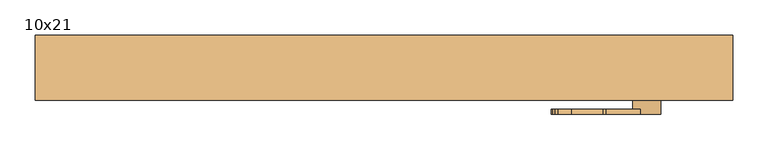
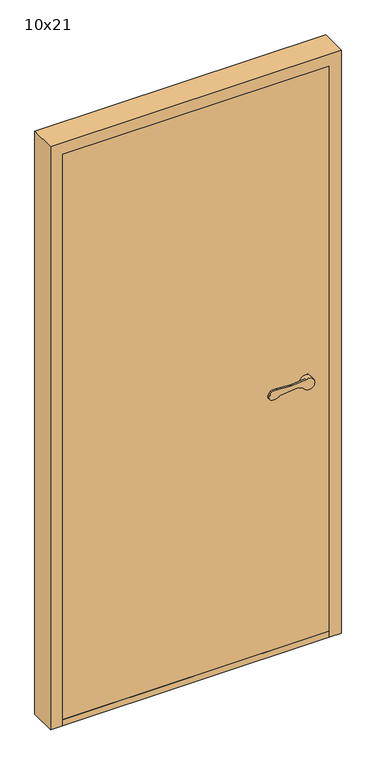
"""IFC4 building model written with IfcOpenShell, lengths in millimetres: door geometry, Innerdør Slett (Diplomat) : 10x21."""

from ifc_helpers import new_model, si_unit, point, frame, frame_2d, origin, origin_with_axes, place, context, project, spatial, polyline, circle_curve, trimmed, segment, composite_curve, outline, extrude, source, transform, mapped, element, save
from ifc_brep_helpers import plane_surface, cylinder_surface, revolved_surface, advanced_brep


def door_10x21_4a16924f(model_context):
    return source(origin(), model_context, "Body", "SolidModel", [
        advanced_brep(
        [(393.9611305, 5.0, 949.1175955), (388.8520664, 5.0, 949.9496913), (326.0476109, 5.0, 943.6260011), (296.721536, 5.0, 938.7393398), (291.8691983, 5.0, 951.8913379), (295.505009, 5.0, 959.9624074), (300.3175669, 5.0, 964.8810513), (318.8963175, 5.0, 967.2639242), (363.6202158, 5.0, 964.1804415), (368.6891233, 5.0, 964.26032), (417.2687793, 5.0, 969.1517356), (446.379633, 5.0, 951.3474568), (408.3841161, 5.0, 942.6204086), (368.6891233, -2.1084716, 964.26032), (363.6202158, -2.1084716, 964.1804415), (318.8963175, -2.1084716, 967.2639242), (300.3175669, -2.1084716, 964.8810513), (295.505009, -2.1084716, 959.9624074), (291.8691983, -2.1084716, 951.8913379), (296.721536, -2.1084716, 938.7393398), (326.0476109, -2.1084716, 943.6260011), (388.8520664, -2.1084716, 949.9496913), (393.9611305, -2.1084716, 949.1175955), (408.3841161, -2.1084716, 942.6204086), (406.379633, -2.1084716, 951.3474568), (417.2687793, -2.1084716, 969.1517356), (446.379633, -30.0, 951.3474568), (406.379633, -30.0, 951.3474568)],
        [
            (0, 1, circle_curve(frame((389.8538865, 5.0, 940.0), z_axis=(0.0, -1.0, 0.0), x_axis=(-0.9949691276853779, 0.0, -0.10018200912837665)), 10.0)),
            (1, 2),
            (2, 3, circle_curve(frame((307.8569644, 5.0, 962.352734), z_axis=(0.0, 1.0, 0.0), x_axis=(-0.9949691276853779, 0.0, -0.10018200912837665)), 26.1072815)),
            (3, 4, circle_curve(frame((300.9867937, 5.0, 947.7840939), z_axis=(0.0, 1.0, 0.0), x_axis=(-0.9949691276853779, 0.0, -0.10018200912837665)), 10.0)),
            (4, 5),
            (5, 6, circle_curve(frame((304.6226045, 5.0, 955.8551634), z_axis=(0.0, 1.0, 0.0), x_axis=(-0.9949691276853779, 0.0, -0.10018200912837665)), 10.0)),
            (6, 7, circle_curve(frame((313.2326797, 5.0, 937.8033877), z_axis=(0.0, 1.0, 0.0), x_axis=(-0.9949691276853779, 0.0, -0.10018200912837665)), 30.0)),
            (7, 8),
            (8, 9, circle_curve(frame((365.683663, 5.0, 994.1093938), z_axis=(0.0, -1.0, 0.0), x_axis=(-0.9949691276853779, 0.0, -0.10018200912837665)), 30.0)),
            (9, 10),
            (10, 11, circle_curve(frame((426.379633, 5.0, 951.3474568), z_axis=(0.0, 1.0, 0.0), x_axis=(-1.0, 0.0, 0.0)), 20.0)),
            (11, 12, circle_curve(frame((426.379633, 5.0, 951.3474568), z_axis=(0.0, 1.0, 0.0), x_axis=(-1.0, 0.0, 0.0)), 20.0)),
            (12, 0),
            (13, 14, circle_curve(frame((365.683663, -2.1084716, 994.1093938), z_axis=(0.0, 1.0, 0.0), x_axis=(-0.9949691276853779, 0.0, -0.10018200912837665)), 30.0)),
            (14, 15),
            (15, 16, circle_curve(frame((313.2326797, -2.1084716, 937.8033877), z_axis=(0.0, -1.0, 0.0), x_axis=(-0.9949691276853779, 0.0, -0.10018200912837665)), 30.0)),
            (16, 17, circle_curve(frame((304.6226045, -2.1084716, 955.8551634), z_axis=(0.0, -1.0, 0.0), x_axis=(-0.9949691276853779, 0.0, -0.10018200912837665)), 10.0)),
            (17, 18),
            (18, 19, circle_curve(frame((300.9867937, -2.1084716, 947.7840939), z_axis=(0.0, -1.0, 0.0), x_axis=(-0.9949691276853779, 0.0, -0.10018200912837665)), 10.0)),
            (19, 20, circle_curve(frame((307.8569644, -2.1084716, 962.352734), z_axis=(0.0, -1.0, 0.0), x_axis=(-0.9949691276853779, 0.0, -0.10018200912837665)), 26.1072815)),
            (20, 21),
            (21, 22, circle_curve(frame((389.8538865, -2.1084716, 940.0), z_axis=(0.0, 1.0, 0.0), x_axis=(-0.9949691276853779, 0.0, -0.10018200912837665)), 10.0)),
            (22, 23),
            (23, 24, circle_curve(frame((426.379633, -2.1084716, 951.3474568), z_axis=(0.0, 1.0, 0.0), x_axis=(-1.0, 0.0, 0.0)), 20.0)),
            (24, 25, circle_curve(frame((426.379633, -2.1084716, 951.3474568), z_axis=(0.0, 1.0, 0.0), x_axis=(-1.0, 0.0, 0.0)), 20.0)),
            (25, 13),
            (9, 13),
            (25, 10),
            (22, 0),
            (12, 23),
            (21, 1),
            (20, 2),
            (19, 3),
            (18, 4),
            (17, 5),
            (16, 6),
            (15, 7),
            (14, 8),
            (26, 27, circle_curve(frame((426.379633, -30.0, 951.3474568), z_axis=(0.0, -1.0, 0.0), x_axis=(-1.0, 0.0, 0.0)), 20.0)),
            (27, 26, circle_curve(frame((426.379633, -30.0, 951.3474568), z_axis=(0.0, -1.0, 0.0), x_axis=(-1.0, 0.0, 0.0)), 20.0)),
            (27, 24),
            (11, 26),
        ],
        [
            plane_surface(frame((417.6960588, 5.0, 969.1947577), z_axis=(0.0, 1.0000000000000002, 0.0), x_axis=(0.9949691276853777, 0.0, 0.10018200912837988))),
            plane_surface(frame((417.6960588, -2.1084716, 969.1947577), z_axis=(0.0, -1.0000000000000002, 0.0), x_axis=(-0.9949691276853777, 0.0, -0.10018200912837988))),
            plane_surface(frame((368.6891233, 5.0, 964.26032), z_axis=(-0.10018200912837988, 0.0, 0.9949691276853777), x_axis=(0.0, -1.0, 0.0))),
            plane_surface(frame((426.9687366, 5.0, 934.2485115), z_axis=(-0.41072439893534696, 0.0, -0.91175954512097), x_axis=(0.0, -1.0, 0.0))),
            revolved_surface(polyline([(379.9041952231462, -2.1084716, 938.9981799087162), (379.9041952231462, 5.0, 938.9981799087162)]), (389.8538865, -2.1084716, 940.0), (0.0, -1.0, 0.0)),
            plane_surface(frame((388.8520664, 5.0, 949.9496913), z_axis=(0.10018200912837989, 0.0, -0.9949691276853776), x_axis=(0.0, -1.0, 0.0))),
            cylinder_surface(frame((307.8569644, -2.1084716, 962.352734), z_axis=(0.0, 1.0, 0.0), x_axis=(-0.9949691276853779, 0.0, -0.10018200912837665)), 26.1072815),
            cylinder_surface(frame((300.9867937, -2.1084716, 947.7840939), z_axis=(0.0, 1.0, 0.0), x_axis=(-0.9949691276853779, 0.0, -0.10018200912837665)), 10.0),
            plane_surface(frame((291.8691983, 5.0, 951.8913379), z_axis=(-0.9117595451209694, 0.0, 0.41072439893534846), x_axis=(0.0, -1.0, 0.0))),
            cylinder_surface(frame((304.6226045, -2.1084716, 955.8551634), z_axis=(0.0, 1.0, 0.0), x_axis=(-0.9949691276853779, 0.0, -0.10018200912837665)), 10.0),
            cylinder_surface(frame((313.2326797, -2.1084716, 937.8033877), z_axis=(0.0, 1.0, 0.0), x_axis=(-0.9949691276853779, 0.0, -0.10018200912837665)), 30.0),
            plane_surface(frame((318.8963175, 5.0, 967.2639242), z_axis=(0.06878157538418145, 0.0, 0.9976317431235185), x_axis=(0.0, -1.0, 0.0))),
            revolved_surface(polyline([(335.8345891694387, -2.1084716, 991.1039335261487), (335.8345891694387, 5.0, 991.1039335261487)]), (365.683663, -2.1084716, 994.1093938), (0.0, -1.0, 0.0)),
            plane_surface(frame((406.379633, -30.0, 951.3474568), z_axis=(0.0, -1.0, 0.0), x_axis=(0.0, 0.0, -1.0))),
            cylinder_surface(frame((426.379633, -30.0, 951.3474568), z_axis=(0.0, 1.0, 0.0), x_axis=(-1.0, 0.0, 0.0)), 20.0),
        ],
        [
            (0, [[1, 2, 3, 4, 5, 6, 7, 8, 9, 10, 11, 12, 13]]),
            (1, [[14, 15, 16, 17, 18, 19, 20, 21, 22, 23, 24, 25, 26]]),
            (2, [[27, -26, 28, -10]]),
            (3, [[29, -13, 30, -23]]),
            (4, [[-1, -29, -22, 31]]),
            (5, [[-2, -31, -21, 32]]),
            (6, [[-3, -32, -20, 33]]),
            (7, [[-4, -33, -19, 34]]),
            (8, [[-5, -34, -18, 35]]),
            (9, [[-6, -35, -17, 36]]),
            (10, [[-7, -36, -16, 37]]),
            (11, [[-8, -37, -15, 38]]),
            (12, [[-9, -38, -14, -27]]),
            (13, [[39, 40]]),
            (14, [[-40, 41, -24, -30, -12, 42]]),
            (14, [[-39, -42, -11, -28, -25, -41]]),
        ],
    ),
        extrude(outline(composite_curve([segment(trimmed(circle_curve(frame_2d((866.3474568, 426.379633)), 20.0), [point((866.3474568, 446.379633))], [point((866.3474568, 406.379633))], False, "CARTESIAN"), True, "CONTINUOUS"), segment(trimmed(circle_curve(frame_2d((866.3474568, 426.379633)), 20.0), [point((866.3474568, 406.379633))], [point((866.3474568, 446.379633))], False, "CARTESIAN"), True, "CONTINUOUS")], self_intersect=False)), frame((0.0, -30.0, 0.0), z_axis=(0.0, 1.0, 0.0), x_axis=(0.0, 0.0, 1.0)), (0.0, 0.0, 1.0), 5.0),
        advanced_brep(
        [(393.9611305, -100.0, 949.1175955), (408.3841161, -100.0, 942.6204086), (446.379633, -100.0, 951.3474568), (417.2687793, -100.0, 969.1517356), (368.6891233, -100.0, 964.26032), (363.6202158, -100.0, 964.1804415), (318.8963175, -100.0, 967.2639242), (300.3175669, -100.0, 964.8810513), (295.505009, -100.0, 959.9624074), (291.8691983, -100.0, 951.8913379), (296.721536, -100.0, 938.7393398), (326.0476109, -100.0, 943.6260011), (388.8520664, -100.0, 949.9496913), (368.6891233, -92.8915284, 964.26032), (417.2687793, -92.8915284, 969.1517356), (406.379633, -92.8915284, 951.3474568), (408.3841161, -92.8915284, 942.6204086), (393.9611305, -92.8915284, 949.1175955), (388.8520664, -92.8915284, 949.9496913), (326.0476109, -92.8915284, 943.6260011), (296.721536, -92.8915284, 938.7393398), (291.8691983, -92.8915284, 951.8913379), (295.505009, -92.8915284, 959.9624074), (300.3175669, -92.8915284, 964.8810513), (318.8963175, -92.8915284, 967.2639242), (363.6202158, -92.8915284, 964.1804415), (446.379633, -65.0, 951.3474568), (406.379633, -65.0, 951.3474568)],
        [
            (0, 1),
            (1, 2, circle_curve(frame((426.379633, -100.0, 951.3474568), z_axis=(0.0, -1.0, 0.0), x_axis=(-1.0, 0.0, 0.0)), 20.0)),
            (2, 3, circle_curve(frame((426.379633, -100.0, 951.3474568), z_axis=(0.0, -1.0, 0.0), x_axis=(-1.0, 0.0, 0.0)), 20.0)),
            (3, 4),
            (4, 5, circle_curve(frame((365.683663, -100.0, 994.1093938), z_axis=(0.0, 1.0, 0.0), x_axis=(-0.9949691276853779, 0.0, -0.10018200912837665)), 30.0)),
            (5, 6),
            (6, 7, circle_curve(frame((313.2326797, -100.0, 937.8033877), z_axis=(0.0, -1.0, 0.0), x_axis=(-0.9949691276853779, 0.0, -0.10018200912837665)), 30.0)),
            (7, 8, circle_curve(frame((304.6226045, -100.0, 955.8551634), z_axis=(0.0, -1.0, 0.0), x_axis=(-0.9949691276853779, 0.0, -0.10018200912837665)), 10.0)),
            (8, 9),
            (9, 10, circle_curve(frame((300.9867937, -100.0, 947.7840939), z_axis=(0.0, -1.0, 0.0), x_axis=(-0.9949691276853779, 0.0, -0.10018200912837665)), 10.0)),
            (10, 11, circle_curve(frame((307.8569644, -100.0, 962.352734), z_axis=(0.0, -1.0, 0.0), x_axis=(-0.9949691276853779, 0.0, -0.10018200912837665)), 26.1072815)),
            (11, 12),
            (12, 0, circle_curve(frame((389.8538865, -100.0, 940.0), z_axis=(0.0, 1.0, 0.0), x_axis=(-0.9949691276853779, 0.0, -0.10018200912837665)), 10.0)),
            (13, 14),
            (14, 15, circle_curve(frame((426.379633, -92.8915284, 951.3474568), z_axis=(0.0, -1.0, 0.0), x_axis=(-1.0, 0.0, 0.0)), 20.0)),
            (15, 16, circle_curve(frame((426.379633, -92.8915284, 951.3474568), z_axis=(0.0, -1.0, 0.0), x_axis=(-1.0, 0.0, 0.0)), 20.0)),
            (16, 17),
            (17, 18, circle_curve(frame((389.8538865, -92.8915284, 940.0), z_axis=(0.0, -1.0, 0.0), x_axis=(-0.9949691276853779, 0.0, -0.10018200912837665)), 10.0)),
            (18, 19),
            (19, 20, circle_curve(frame((307.8569644, -92.8915284, 962.352734), z_axis=(0.0, 1.0, 0.0), x_axis=(-0.9949691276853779, 0.0, -0.10018200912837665)), 26.1072815)),
            (20, 21, circle_curve(frame((300.9867937, -92.8915284, 947.7840939), z_axis=(0.0, 1.0, 0.0), x_axis=(-0.9949691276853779, 0.0, -0.10018200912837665)), 10.0)),
            (21, 22),
            (22, 23, circle_curve(frame((304.6226045, -92.8915284, 955.8551634), z_axis=(0.0, 1.0, 0.0), x_axis=(-0.9949691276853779, 0.0, -0.10018200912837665)), 10.0)),
            (23, 24, circle_curve(frame((313.2326797, -92.8915284, 937.8033877), z_axis=(0.0, 1.0, 0.0), x_axis=(-0.9949691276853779, 0.0, -0.10018200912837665)), 30.0)),
            (24, 25),
            (25, 13, circle_curve(frame((365.683663, -92.8915284, 994.1093938), z_axis=(0.0, -1.0, 0.0), x_axis=(-0.9949691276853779, 0.0, -0.10018200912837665)), 30.0)),
            (3, 14),
            (13, 4),
            (16, 1),
            (0, 17),
            (12, 18),
            (11, 19),
            (10, 20),
            (9, 21),
            (8, 22),
            (7, 23),
            (6, 24),
            (5, 25),
            (26, 27, circle_curve(frame((426.379633, -65.0, 951.3474568), z_axis=(0.0, 1.0, 0.0), x_axis=(-1.0, 0.0, 0.0)), 20.0)),
            (27, 26, circle_curve(frame((426.379633, -65.0, 951.3474568), z_axis=(0.0, 1.0, 0.0), x_axis=(-1.0, 0.0, 0.0)), 20.0)),
            (26, 2),
            (15, 27),
        ],
        [
            plane_surface(frame((417.6960588, -100.0, 969.1947577), z_axis=(0.0, -1.0000000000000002, 0.0), x_axis=(0.9949691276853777, 0.0, 0.10018200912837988))),
            plane_surface(frame((417.6960588, -92.8915284, 969.1947577), z_axis=(0.0, 1.0000000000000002, 0.0), x_axis=(-0.9949691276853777, 0.0, -0.10018200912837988))),
            plane_surface(frame((368.6891233, -100.0, 964.26032), z_axis=(-0.10018200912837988, 0.0, 0.9949691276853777), x_axis=(0.0, 1.0, 0.0))),
            plane_surface(frame((426.9687366, -100.0, 934.2485115), z_axis=(-0.41072439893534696, 0.0, -0.91175954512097), x_axis=(0.0, 1.0, 0.0))),
            revolved_surface(polyline([(379.9041952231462, -92.8915284, 938.9981799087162), (379.9041952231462, -100.0, 938.9981799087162)]), (389.8538865, -92.8915284, 940.0), (0.0, 1.0, 0.0)),
            plane_surface(frame((388.8520664, -100.0, 949.9496913), z_axis=(0.10018200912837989, 0.0, -0.9949691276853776), x_axis=(0.0, 1.0, 0.0))),
            cylinder_surface(frame((307.8569644, -92.8915284, 962.352734), z_axis=(0.0, -1.0, 0.0), x_axis=(-0.9949691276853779, 0.0, -0.10018200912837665)), 26.1072815),
            cylinder_surface(frame((300.9867937, -92.8915284, 947.7840939), z_axis=(0.0, -1.0, 0.0), x_axis=(-0.9949691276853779, 0.0, -0.10018200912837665)), 10.0),
            plane_surface(frame((291.8691983, -100.0, 951.8913379), z_axis=(-0.9117595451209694, 0.0, 0.41072439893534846), x_axis=(0.0, 1.0, 0.0))),
            cylinder_surface(frame((304.6226045, -92.8915284, 955.8551634), z_axis=(0.0, -1.0, 0.0), x_axis=(-0.9949691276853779, 0.0, -0.10018200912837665)), 10.0),
            cylinder_surface(frame((313.2326797, -92.8915284, 937.8033877), z_axis=(0.0, -1.0, 0.0), x_axis=(-0.9949691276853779, 0.0, -0.10018200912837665)), 30.0),
            plane_surface(frame((318.8963175, -100.0, 967.2639242), z_axis=(0.06878157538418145, 0.0, 0.9976317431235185), x_axis=(0.0, 1.0, 0.0))),
            revolved_surface(polyline([(335.8345891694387, -92.8915284, 991.1039335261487), (335.8345891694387, -100.0, 991.1039335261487)]), (365.683663, -92.8915284, 994.1093938), (0.0, 1.0, 0.0)),
            plane_surface(frame((406.379633, -65.0, 951.3474568), z_axis=(0.0, 1.0, 0.0), x_axis=(0.0, 0.0, -1.0))),
            cylinder_surface(frame((426.379633, -65.0, 951.3474568), z_axis=(0.0, -1.0, 0.0), x_axis=(-1.0, 0.0, 0.0)), 20.0),
        ],
        [
            (0, [[1, 2, 3, 4, 5, 6, 7, 8, 9, 10, 11, 12, 13]]),
            (1, [[14, 15, 16, 17, 18, 19, 20, 21, 22, 23, 24, 25, 26]]),
            (2, [[-4, 27, -14, 28]]),
            (3, [[-17, 29, -1, 30]]),
            (4, [[31, -18, -30, -13]]),
            (5, [[32, -19, -31, -12]]),
            (6, [[33, -20, -32, -11]]),
            (7, [[34, -21, -33, -10]]),
            (8, [[35, -22, -34, -9]]),
            (9, [[36, -23, -35, -8]]),
            (10, [[37, -24, -36, -7]]),
            (11, [[38, -25, -37, -6]]),
            (12, [[-28, -26, -38, -5]]),
            (13, [[39, 40]]),
            (14, [[41, -2, -29, -16, 42, -39]]),
            (14, [[-42, -15, -27, -3, -41, -40]]),
        ],
    ),
        extrude(outline(composite_curve([segment(trimmed(circle_curve(frame_2d((866.3474568, 426.379633)), 20.0), [point((866.3474568, 446.379633))], [point((866.3474568, 406.379633))], False, "CARTESIAN"), True, "CONTINUOUS"), segment(trimmed(circle_curve(frame_2d((866.3474568, 426.379633)), 20.0), [point((866.3474568, 406.379633))], [point((866.3474568, 446.379633))], False, "CARTESIAN"), True, "CONTINUOUS")], self_intersect=False)), frame((0.0, -70.0, 0.0), z_axis=(0.0, 1.0, 0.0), x_axis=(0.0, 0.0, 1.0)), (0.0, 0.0, 1.0), 5.0),
        extrude(outline(polyline([(506.379633, 12.0), (506.379633, -80.0), (-399.620367, -80.0), (-399.620367, 12.0), (506.379633, 12.0)])), origin_with_axes(), (0.0, 0.0, 1.0), 22.0),
        extrude(outline(polyline([(506.379633, -30.0), (506.379633, -80.0), (-399.620367, -80.0), (-399.620367, -30.0), (506.379633, -30.0)])), frame((0.0, 0.0, 22.0), z_axis=(0.0, 0.0, 1.0), x_axis=(1.0, 0.0, 0.0)), (0.0, 0.0, 1.0), 2031.0),
        extrude(outline(polyline([(0.0, -399.620367), (2053.0, -399.620367), (2053.0, 506.379633), (0.0, 506.379633), (0.0, 548.379633), (2095.0, 548.379633), (2095.0, -441.620367), (0.0, -441.620367), (0.0, -399.620367)])), frame((0.0, -80.0, 0.0), z_axis=(0.0, 1.0, 0.0), x_axis=(0.0, 0.0, 1.0)), (0.0, 0.0, 1.0), 92.0),
    ])


if __name__ == "__main__":
    model = new_model("IFC4")
    model_context = context("Model", 3, world=origin())
    ifc_project = project(units=[si_unit("LENGTHUNIT", "METRE", prefix="MILLI")], contexts=[model_context])
    site = spatial("IfcSite", under=ifc_project)
    building = spatial("IfcBuilding", under=site)
    placement = place(None, origin())
    door_10x21_shape = door_10x21_4a16924f(model_context)
    element("IfcDoor", 1, ObjectType="Innerdør Slett (Diplomat) : 10x21", at=placement, inside=building, context=model_context, shape_type="MappedRepresentation", body=[
        mapped(door_10x21_shape, transform((0.0, 0.0, 0.0), x_axis=(1.0, 0.0, 0.0), y_axis=(0.0, 1.0, 0.0), z_axis=(0.0, 0.0, 1.0))),
    ])
    save(model, "model.ifc")
